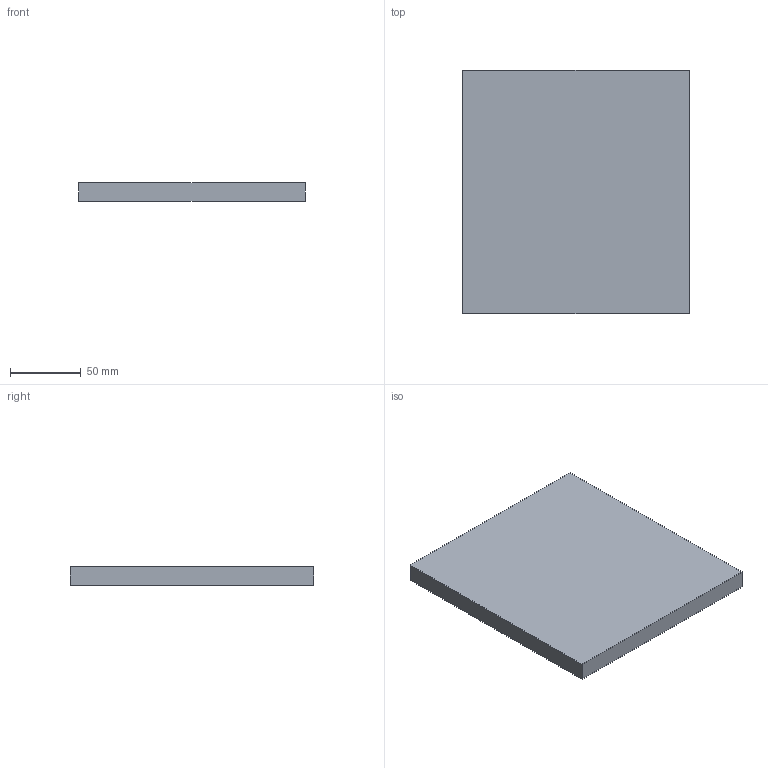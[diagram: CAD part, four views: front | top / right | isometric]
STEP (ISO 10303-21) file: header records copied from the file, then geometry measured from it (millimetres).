
FILE_DESCRIPTION(/* description */ (''),/* implementation_level */ '2;1');
FILE_NAME(/* name */ 'tyl_ekran.stp',/* time_stamp */ '2025-06-06T22:27:18+02:00',/* author */ (''),/* organization */ (''),/* preprocessor_version */ 'ST-DEVELOPER v20',/* originating_system */ 'SIEMENS PLM Software NX2412.3001',/* authorisation */ '');
FILE_SCHEMA (('AUTOMOTIVE_DESIGN { 1 0 10303 214 3 1 1 1 }'));
Length unit declared in the file: millimetre
Products named in the file (1): tyl_ekran
Bounding box: 160 x 172 x 13 mm (x, y, z)
Volume: 357760 mm3; surface area: 63672 mm2
Topology: 1 solids, 1 shells, 6 faces, 12 edges, 8 vertices
Faces by surface type: plane 6
Entity records: 180 total; most frequent: CARTESIAN_POINT 27, DIRECTION 26, ORIENTED_EDGE 24, EDGE_CURVE 12, LINE 12, VECTOR 12, VERTEX_POINT 8, AXIS2_PLACEMENT_3D 7
